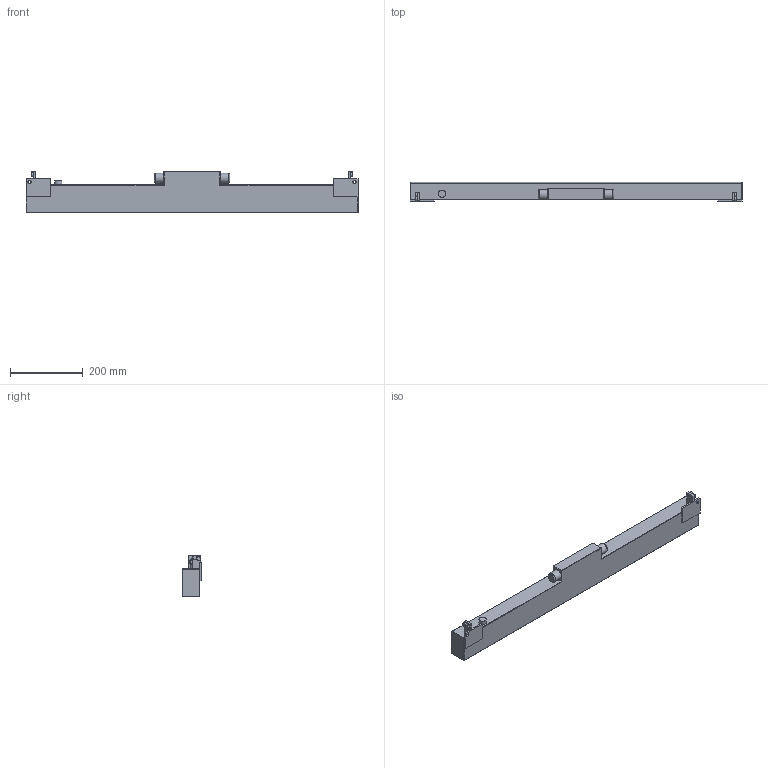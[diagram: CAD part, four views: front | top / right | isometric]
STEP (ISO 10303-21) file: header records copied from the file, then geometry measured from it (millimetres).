
FILE_DESCRIPTION(/* description */ ('Unknown'),/* implementation_level */ '2;1');
FILE_NAME(/* name */ 'EMINERE Remote 3 MC',/* time_stamp */ '2024-06-19T09:48:49+02:00',/* author */ ('Unknown'),/* organization */ ('Unknown'),/* preprocessor_version */ 'ST-DEVELOPER v19.4',/* originating_system */ 'Solid Edge',/* authorisation */ 'Unknown');
FILE_SCHEMA (('AUTOMOTIVE_DESIGN {1 0 10303 214 3 1 1}'));
Length unit declared in the file: millimetre
Products named in the file (1): EMINERE Remote 3 MC
Bounding box: 914.4 x 52.4 x 113 mm (x, y, z)
Volume: 3555061 mm3; surface area: 261019.1 mm2
Topology: 1 solids, 1 shells, 88 faces, 221 edges, 134 vertices
Faces by surface type: plane 47, cylinder 29, torus 10, sphere 2
Full cylindrical faces by diameter (mm): 11 x4, 20 x1, 27 x2
Entity records: 2548 total; most frequent: DIRECTION 452, CARTESIAN_POINT 425, ORIENTED_EDGE 412, EDGE_CURVE 206, AXIS2_PLACEMENT_3D 157, LINE 138, VECTOR 138, VERTEX_POINT 130
